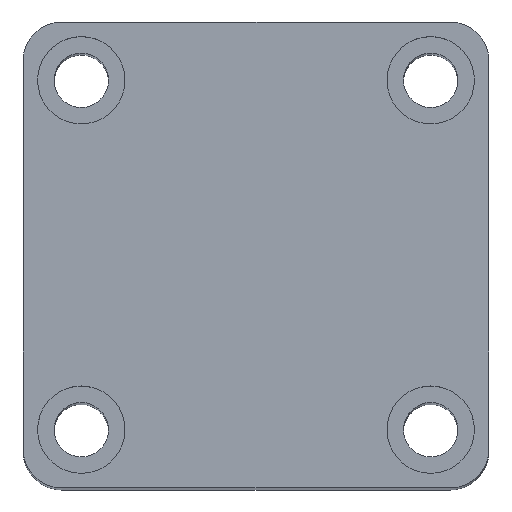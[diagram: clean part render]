
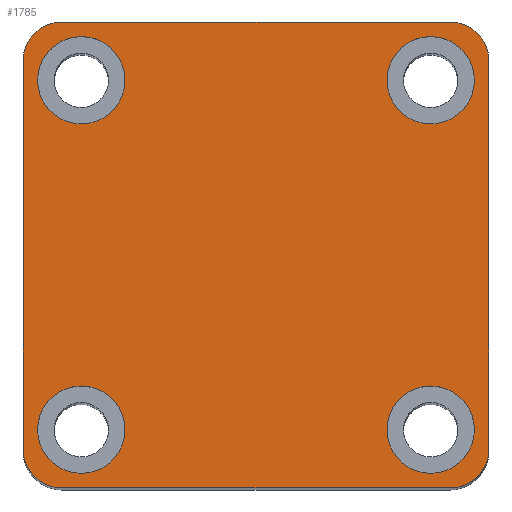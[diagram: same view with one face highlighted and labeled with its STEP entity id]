
A CAD part, top view. The second image highlights one B-rep face of the part: STEP entity #1785.
In plain terms, the highlighted planar face has unit normal (0, 0, 1).
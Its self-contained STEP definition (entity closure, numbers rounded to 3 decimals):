
#80 = VERTEX_POINT ( 'NONE', #1573 ) ;
#138 = VERTEX_POINT ( 'NONE', #1555 ) ;
#176 = FACE_BOUND ( 'NONE', #921, .T. ) ;
#178 = FACE_OUTER_BOUND ( 'NONE', #968, .T. ) ;
#180 = FACE_BOUND ( 'NONE', #929, .T. ) ;
#182 = FACE_BOUND ( 'NONE', #967, .T. ) ;
#184 = FACE_BOUND ( 'NONE', #908, .T. ) ;
#285 = VERTEX_POINT ( 'NONE', #1537 ) ;
#323 = AXIS2_PLACEMENT_3D ( 'NONE', #2187, #2192, #2185 ) ;
#466 = CIRCLE ( 'NONE', #1153, 4.5 ) ;
#515 = CIRCLE ( 'NONE', #1163, 4.5 ) ;
#531 = CIRCLE ( 'NONE', #1168, 4.5 ) ;
#556 = CIRCLE ( 'NONE', #1171, 4.5 ) ;
#766 = ORIENTED_EDGE ( 'NONE', *, *, #1205, .F. ) ;
#767 = ORIENTED_EDGE ( 'NONE', *, *, #1649, .F. ) ;
#768 = ORIENTED_EDGE ( 'NONE', *, *, #1185, .F. ) ;
#769 = ORIENTED_EDGE ( 'NONE', *, *, #1648, .F. ) ;
#770 = ORIENTED_EDGE ( 'NONE', *, *, #1179, .F. ) ;
#771 = ORIENTED_EDGE ( 'NONE', *, *, #1647, .F. ) ;
#772 = ORIENTED_EDGE ( 'NONE', *, *, #1175, .F. ) ;
#773 = ORIENTED_EDGE ( 'NONE', *, *, #1646, .F. ) ;
#774 = ORIENTED_EDGE ( 'NONE', *, *, #1653, .T. ) ;
#775 = ORIENTED_EDGE ( 'NONE', *, *, #1614, .T. ) ;
#776 = ORIENTED_EDGE ( 'NONE', *, *, #1652, .T. ) ;
#777 = ORIENTED_EDGE ( 'NONE', *, *, #1704, .T. ) ;
#778 = ORIENTED_EDGE ( 'NONE', *, *, #1651, .T. ) ;
#780 = ORIENTED_EDGE ( 'NONE', *, *, #1640, .T. ) ;
#782 = ORIENTED_EDGE ( 'NONE', *, *, #1650, .T. ) ;
#784 = ORIENTED_EDGE ( 'NONE', *, *, #1608, .T. ) ;
#892 = VERTEX_POINT ( 'NONE', #1525 ) ;
#908 = EDGE_LOOP ( 'NONE', ( #773, #772 ) ) ;
#921 = EDGE_LOOP ( 'NONE', ( #771, #770 ) ) ;
#929 = EDGE_LOOP ( 'NONE', ( #769, #768 ) ) ;
#967 = EDGE_LOOP ( 'NONE', ( #767, #766 ) ) ;
#968 = EDGE_LOOP ( 'NONE', ( #784, #782, #780, #778, #777, #776, #775, #774 ) ) ;
#978 = VERTEX_POINT ( 'NONE', #1526 ) ;
#985 = VERTEX_POINT ( 'NONE', #1499 ) ;
#1006 = VERTEX_POINT ( 'NONE', #1468 ) ;
#1011 = VERTEX_POINT ( 'NONE', #1456 ) ;
#1019 = VERTEX_POINT ( 'NONE', #1442 ) ;
#1021 = VERTEX_POINT ( 'NONE', #1431 ) ;
#1039 = VERTEX_POINT ( 'NONE', #1372 ) ;
#1046 = VERTEX_POINT ( 'NONE', #1367 ) ;
#1052 = VERTEX_POINT ( 'NONE', #1348 ) ;
#1056 = VERTEX_POINT ( 'NONE', #1342 ) ;
#1058 = VERTEX_POINT ( 'NONE', #1341 ) ;
#1061 = VERTEX_POINT ( 'NONE', #1330 ) ;
#1101 = AXIS2_PLACEMENT_3D ( 'NONE', #2625, #2622, #2621 ) ;
#1102 = AXIS2_PLACEMENT_3D ( 'NONE', #2629, #2627, #2626 ) ;
#1103 = AXIS2_PLACEMENT_3D ( 'NONE', #2632, #2631, #2630 ) ;
#1104 = AXIS2_PLACEMENT_3D ( 'NONE', #2636, #2635, #2633 ) ;
#1105 = AXIS2_PLACEMENT_3D ( 'NONE', #2640, #2639, #2638 ) ;
#1106 = AXIS2_PLACEMENT_3D ( 'NONE', #2644, #2643, #2641 ) ;
#1107 = AXIS2_PLACEMENT_3D ( 'NONE', #2647, #2646, #2645 ) ;
#1108 = AXIS2_PLACEMENT_3D ( 'NONE', #2651, #2650, #2649 ) ;
#1153 = AXIS2_PLACEMENT_3D ( 'NONE', #1467, #1466, #1465 ) ;
#1163 = AXIS2_PLACEMENT_3D ( 'NONE', #1578, #1577, #1576 ) ;
#1168 = AXIS2_PLACEMENT_3D ( 'NONE', #1595, #1594, #1593 ) ;
#1171 = AXIS2_PLACEMENT_3D ( 'NONE', #1259, #1258, #1256 ) ;
#1175 = EDGE_CURVE ( 'NONE', #1061, #138, #556, .T. ) ;
#1179 = EDGE_CURVE ( 'NONE', #1006, #285, #531, .T. ) ;
#1185 = EDGE_CURVE ( 'NONE', #985, #892, #515, .T. ) ;
#1205 = EDGE_CURVE ( 'NONE', #1011, #1019, #466, .T. ) ;
#1256 = DIRECTION ( 'NONE',  ( 1., 0., 0. ) ) ;
#1258 = DIRECTION ( 'NONE',  ( 0., 0., 1. ) ) ;
#1259 = CARTESIAN_POINT ( 'NONE',  ( -18., 18., 125. ) ) ;
#1269 = DIRECTION ( 'NONE',  ( 0., 1., 0. ) ) ;
#1278 = CARTESIAN_POINT ( 'NONE',  ( 24., 24., 125. ) ) ;
#1290 = CARTESIAN_POINT ( 'NONE',  ( -24., 24., 125. ) ) ;
#1304 = DIRECTION ( 'NONE',  ( -1., 0., 0. ) ) ;
#1330 = CARTESIAN_POINT ( 'NONE',  ( -22.5, 18., 125. ) ) ;
#1341 = CARTESIAN_POINT ( 'NONE',  ( 20., 24., 125. ) ) ;
#1342 = CARTESIAN_POINT ( 'NONE',  ( -20., -24., 125. ) ) ;
#1348 = CARTESIAN_POINT ( 'NONE',  ( 20., -24., 125. ) ) ;
#1367 = CARTESIAN_POINT ( 'NONE',  ( -24., 20., 125. ) ) ;
#1372 = CARTESIAN_POINT ( 'NONE',  ( 24., 20., 125. ) ) ;
#1431 = CARTESIAN_POINT ( 'NONE',  ( -24., -20., 125. ) ) ;
#1442 = CARTESIAN_POINT ( 'NONE',  ( 22.5, -18., 125. ) ) ;
#1456 = CARTESIAN_POINT ( 'NONE',  ( 13.5, -18., 125. ) ) ;
#1465 = DIRECTION ( 'NONE',  ( 1., 0., 0. ) ) ;
#1466 = DIRECTION ( 'NONE',  ( 0., 0., 1. ) ) ;
#1467 = CARTESIAN_POINT ( 'NONE',  ( 18., -18., 125. ) ) ;
#1468 = CARTESIAN_POINT ( 'NONE',  ( 13.5, 18., 125. ) ) ;
#1499 = CARTESIAN_POINT ( 'NONE',  ( -22.5, -18., 125. ) ) ;
#1525 = CARTESIAN_POINT ( 'NONE',  ( -13.5, -18., 125. ) ) ;
#1526 = CARTESIAN_POINT ( 'NONE',  ( -20., 24., 125. ) ) ;
#1537 = CARTESIAN_POINT ( 'NONE',  ( 22.5, 18., 125. ) ) ;
#1555 = CARTESIAN_POINT ( 'NONE',  ( -13.5, 18., 125. ) ) ;
#1573 = CARTESIAN_POINT ( 'NONE',  ( 24., -20., 125. ) ) ;
#1576 = DIRECTION ( 'NONE',  ( 1., 0., 0. ) ) ;
#1577 = DIRECTION ( 'NONE',  ( 0., 0., 1. ) ) ;
#1578 = CARTESIAN_POINT ( 'NONE',  ( -18., -18., 125. ) ) ;
#1593 = DIRECTION ( 'NONE',  ( 1., 0., 0. ) ) ;
#1594 = DIRECTION ( 'NONE',  ( 0., 0., 1. ) ) ;
#1595 = CARTESIAN_POINT ( 'NONE',  ( 18., 18., 125. ) ) ;
#1608 = EDGE_CURVE ( 'NONE', #1058, #978, #1979, .T. ) ;
#1614 = EDGE_CURVE ( 'NONE', #80, #1039, #1967, .T. ) ;
#1640 = EDGE_CURVE ( 'NONE', #1046, #1021, #1926, .T. ) ;
#1646 = EDGE_CURVE ( 'NONE', #138, #1061, #1914, .T. ) ;
#1647 = EDGE_CURVE ( 'NONE', #285, #1006, #1912, .T. ) ;
#1648 = EDGE_CURVE ( 'NONE', #892, #985, #1911, .T. ) ;
#1649 = EDGE_CURVE ( 'NONE', #1019, #1011, #1910, .T. ) ;
#1650 = EDGE_CURVE ( 'NONE', #978, #1046, #1909, .T. ) ;
#1651 = EDGE_CURVE ( 'NONE', #1021, #1056, #1908, .T. ) ;
#1652 = EDGE_CURVE ( 'NONE', #1052, #80, #1907, .T. ) ;
#1653 = EDGE_CURVE ( 'NONE', #1039, #1058, #1906, .T. ) ;
#1704 = EDGE_CURVE ( 'NONE', #1056, #1052, #1854, .T. ) ;
#1785 = ADVANCED_FACE ( 'NONE', ( #184, #176, #180, #182, #178 ), #2189, .T. ) ;
#1852 = VECTOR ( 'NONE', #2340, 1000. ) ;
#1854 = LINE ( 'NONE', #2365, #1852 ) ;
#1906 = CIRCLE ( 'NONE', #1101, 4. ) ;
#1907 = CIRCLE ( 'NONE', #1102, 4. ) ;
#1908 = CIRCLE ( 'NONE', #1103, 4. ) ;
#1909 = CIRCLE ( 'NONE', #1104, 4. ) ;
#1910 = CIRCLE ( 'NONE', #1105, 4.5 ) ;
#1911 = CIRCLE ( 'NONE', #1106, 4.5 ) ;
#1912 = CIRCLE ( 'NONE', #1107, 4.5 ) ;
#1914 = CIRCLE ( 'NONE', #1108, 4.5 ) ;
#1923 = VECTOR ( 'NONE', #2210, 1000. ) ;
#1926 = LINE ( 'NONE', #2233, #1923 ) ;
#1963 = VECTOR ( 'NONE', #1269, 1000. ) ;
#1967 = LINE ( 'NONE', #1278, #1963 ) ;
#1974 = VECTOR ( 'NONE', #1304, 1000. ) ;
#1979 = LINE ( 'NONE', #1290, #1974 ) ;
#2185 = DIRECTION ( 'NONE',  ( 1., 0., 0. ) ) ;
#2187 = CARTESIAN_POINT ( 'NONE',  ( 0., 0., 125. ) ) ;
#2189 = PLANE ( 'NONE',  #323 ) ;
#2192 = DIRECTION ( 'NONE',  ( 0., 0., 1. ) ) ;
#2210 = DIRECTION ( 'NONE',  ( 0., -1., 0. ) ) ;
#2233 = CARTESIAN_POINT ( 'NONE',  ( -24., 24., 125. ) ) ;
#2340 = DIRECTION ( 'NONE',  ( 1., 0., 0. ) ) ;
#2365 = CARTESIAN_POINT ( 'NONE',  ( -24., -24., 125. ) ) ;
#2621 = DIRECTION ( 'NONE',  ( 1., 0., 0. ) ) ;
#2622 = DIRECTION ( 'NONE',  ( 0., 0., 1. ) ) ;
#2625 = CARTESIAN_POINT ( 'NONE',  ( 20., 20., 125. ) ) ;
#2626 = DIRECTION ( 'NONE',  ( 1., 0., 0. ) ) ;
#2627 = DIRECTION ( 'NONE',  ( 0., 0., 1. ) ) ;
#2629 = CARTESIAN_POINT ( 'NONE',  ( 20., -20., 125. ) ) ;
#2630 = DIRECTION ( 'NONE',  ( 1., 0., 0. ) ) ;
#2631 = DIRECTION ( 'NONE',  ( 0., 0., 1. ) ) ;
#2632 = CARTESIAN_POINT ( 'NONE',  ( -20., -20., 125. ) ) ;
#2633 = DIRECTION ( 'NONE',  ( 1., 0., 0. ) ) ;
#2635 = DIRECTION ( 'NONE',  ( 0., 0., 1. ) ) ;
#2636 = CARTESIAN_POINT ( 'NONE',  ( -20., 20., 125. ) ) ;
#2638 = DIRECTION ( 'NONE',  ( 1., 0., 0. ) ) ;
#2639 = DIRECTION ( 'NONE',  ( 0., 0., 1. ) ) ;
#2640 = CARTESIAN_POINT ( 'NONE',  ( 18., -18., 125. ) ) ;
#2641 = DIRECTION ( 'NONE',  ( 1., 0., 0. ) ) ;
#2643 = DIRECTION ( 'NONE',  ( 0., 0., 1. ) ) ;
#2644 = CARTESIAN_POINT ( 'NONE',  ( -18., -18., 125. ) ) ;
#2645 = DIRECTION ( 'NONE',  ( 1., 0., 0. ) ) ;
#2646 = DIRECTION ( 'NONE',  ( 0., 0., 1. ) ) ;
#2647 = CARTESIAN_POINT ( 'NONE',  ( 18., 18., 125. ) ) ;
#2649 = DIRECTION ( 'NONE',  ( 1., 0., 0. ) ) ;
#2650 = DIRECTION ( 'NONE',  ( 0., 0., 1. ) ) ;
#2651 = CARTESIAN_POINT ( 'NONE',  ( -18., 18., 125. ) ) ;
